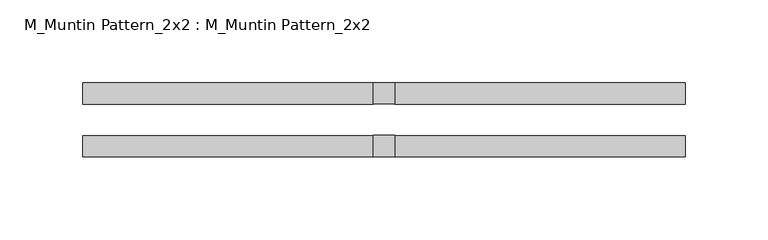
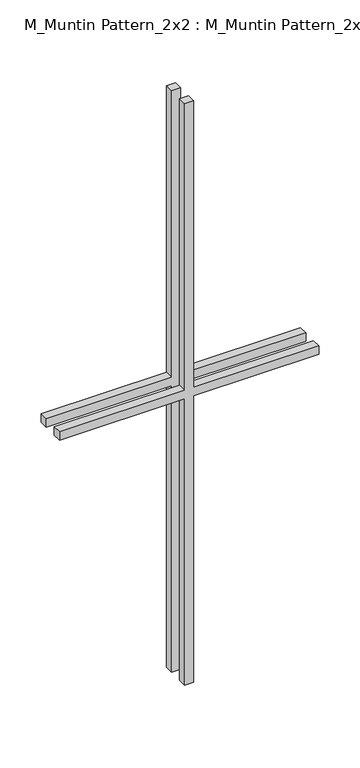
"""IFC4 building model written with IfcOpenShell, lengths in millimetres: proxy geometry, M_Muntin Pattern_2x2 : M_Muntin Pattern_2x2."""

from ifc_helpers import new_model, si_unit, frame, origin, place, context, project, spatial, polyline, outline, extrude, source, transform, mapped, element, save


def m_muntin_pattern_2x2_m_muntin_pattern_2x2_d1c301e3(model_context):
    return source(origin(), model_context, "Body", "SweptSolid", [
        extrude(outline(polyline([(436.5, -6.35), (436.5, -181.7375), (423.8, -181.7375), (423.8, -6.35), (0.0, -6.35), (0.0, 6.35), (423.8, 6.35), (423.8, 181.7375), (436.5, 181.7375), (436.5, 6.35), (860.3, 6.35), (860.3, -6.35), (436.5, -6.35)])), frame((0.0, -22.225, 0.0), z_axis=(0.0, 1.0, 0.0), x_axis=(0.0, 0.0, 1.0)), (0.0, 0.0, 1.0), 12.7),
        extrude(outline(polyline([(436.5, -6.35), (436.5, -181.7375), (423.8, -181.7375), (423.8, -6.35), (0.0, -6.35), (0.0, 6.35), (423.8, 6.35), (423.8, 181.7375), (436.5, 181.7375), (436.5, 6.35), (860.3, 6.35), (860.3, -6.35), (436.5, -6.35)])), frame((0.0, 9.525, 0.0), z_axis=(0.0, 1.0, 0.0), x_axis=(0.0, 0.0, 1.0)), (0.0, 0.0, 1.0), 12.7),
    ])


if __name__ == "__main__":
    model = new_model("IFC4")
    model_context = context("Model", 3, world=origin())
    ifc_project = project(units=[si_unit("LENGTHUNIT", "METRE", prefix="MILLI")], contexts=[model_context])
    site = spatial("IfcSite", under=ifc_project)
    building = spatial("IfcBuilding", under=site)
    placement = place(None, origin())
    m_muntin_pattern_2x2_m_muntin_pattern_2x2_shape = m_muntin_pattern_2x2_m_muntin_pattern_2x2_d1c301e3(model_context)
    element("IfcBuildingElementProxy", 1, Name="M_Muntin Pattern_2x2 : M_Muntin Pattern_2x2", ObjectType="M_Muntin Pattern_2x2 : M_Muntin Pattern_2x2", at=placement, inside=building, context=model_context, shape_type="MappedRepresentation", body=[
        mapped(m_muntin_pattern_2x2_m_muntin_pattern_2x2_shape, transform((0.0, 0.0, 0.0), x_axis=(1.0, 0.0, 0.0), y_axis=(0.0, 1.0, 0.0), z_axis=(0.0, 0.0, 1.0))),
    ])
    save(model, "model.ifc")
